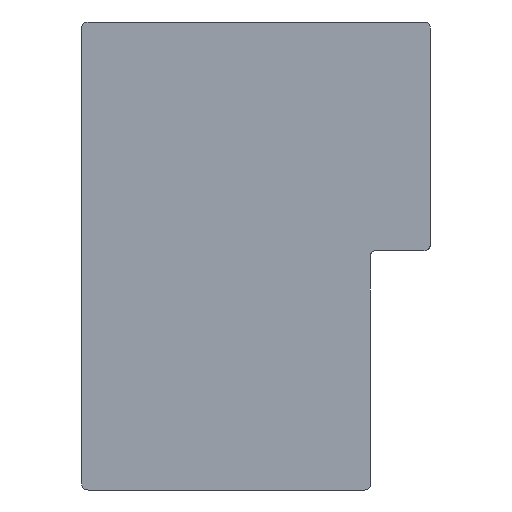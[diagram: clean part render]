
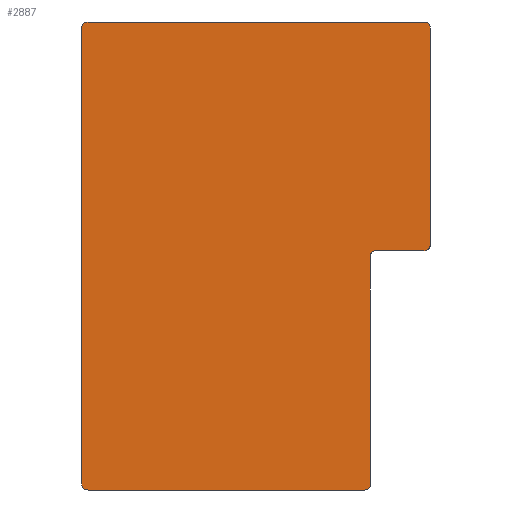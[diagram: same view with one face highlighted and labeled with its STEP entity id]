
A CAD part, front view. The second image highlights one B-rep face of the part: STEP entity #2887.
In plain terms, the highlighted planar face has unit normal (0, -1, 0).
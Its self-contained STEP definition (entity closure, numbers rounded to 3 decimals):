
#20 = CARTESIAN_POINT ( 'NONE',  ( -13.86, 0., -18.457 ) ) ;
#22 = FACE_OUTER_BOUND ( 'NONE', #1239, .T. ) ;
#39 = DIRECTION ( 'NONE',  ( 0., -1., 0. ) ) ;
#54 = CARTESIAN_POINT ( 'NONE',  ( -13.695, 0., -18.622 ) ) ;
#85 = VERTEX_POINT ( 'NONE', #2794 ) ;
#104 = CARTESIAN_POINT ( 'NONE',  ( 9.098, 0., -0.069 ) ) ;
#119 = CARTESIAN_POINT ( 'NONE',  ( 9.098, 0., -0.002 ) ) ;
#130 = EDGE_CURVE ( 'NONE', #2142, #1344, #722, .T. ) ;
#151 = AXIS2_PLACEMENT_3D ( 'NONE', #1589, #39, #339 ) ;
#152 = CARTESIAN_POINT ( 'NONE',  ( 13.86, 0., 0.591 ) ) ;
#201 = VECTOR ( 'NONE', #1889, 1000. ) ;
#204 = DIRECTION ( 'NONE',  ( 0., 0., 1. ) ) ;
#276 = CARTESIAN_POINT ( 'NONE',  ( -13.86, 0., -18.127 ) ) ;
#339 = DIRECTION ( 'NONE',  ( 0., 0., -1. ) ) ;
#356 = CARTESIAN_POINT ( 'NONE',  ( -13.365, 0., 18.622 ) ) ;
#448 = B_SPLINE_CURVE_WITH_KNOTS ( 'NONE', 3,
 ( #1090, #1555, #3113, #1120 ),
 .UNSPECIFIED., .F., .F.,
 ( 4, 4 ),
 ( 0., 1. ),
 .UNSPECIFIED. ) ;
#517 = VECTOR ( 'NONE', #3211, 1000. ) ;
#521 = B_SPLINE_CURVE_WITH_KNOTS ( 'NONE', 3,
 ( #900, #1127, #1905, #647 ),
 .UNSPECIFIED., .F., .F.,
 ( 4, 4 ),
 ( 0., 1. ),
 .UNSPECIFIED. ) ;
#588 = PLANE ( 'NONE',  #151 ) ;
#632 = CARTESIAN_POINT ( 'NONE',  ( 9.458, 0., 0.419 ) ) ;
#639 = LINE ( 'NONE', #2219, #517 ) ;
#647 = CARTESIAN_POINT ( 'NONE',  ( 9.098, 0., -18.127 ) ) ;
#657 = CARTESIAN_POINT ( 'NONE',  ( 13.695, 0., 18.622 ) ) ;
#670 = VECTOR ( 'NONE', #2638, 1000. ) ;
#721 = EDGE_CURVE ( 'NONE', #2155, #1344, #639, .T. ) ;
#722 = B_SPLINE_CURVE_WITH_KNOTS ( 'NONE', 3,
 ( #104, #119, #1938, #2949, #1883, #1650, #2146, #632, #880, #2387 ),
 .UNSPECIFIED., .F., .F.,
 ( 4, 2, 2, 2, 4 ),
 ( 0., 0., 0., 0.001, 0.001 ),
 .UNSPECIFIED. ) ;
#756 = CARTESIAN_POINT ( 'NONE',  ( 13.86, 0., 0.921 ) ) ;
#861 = ORIENTED_EDGE ( 'NONE', *, *, #3176, .F. ) ;
#880 = CARTESIAN_POINT ( 'NONE',  ( 9.526, 0., 0.426 ) ) ;
#892 = VERTEX_POINT ( 'NONE', #356 ) ;
#900 = CARTESIAN_POINT ( 'NONE',  ( 8.603, 0., -18.622 ) ) ;
#937 = VECTOR ( 'NONE', #3074, 1000. ) ;
#955 = ORIENTED_EDGE ( 'NONE', *, *, #3106, .F. ) ;
#982 = CARTESIAN_POINT ( 'NONE',  ( 9.098, 0., -0.069 ) ) ;
#1056 = ORIENTED_EDGE ( 'NONE', *, *, #1311, .F. ) ;
#1090 = CARTESIAN_POINT ( 'NONE',  ( -13.365, 0., 18.622 ) ) ;
#1091 = ORIENTED_EDGE ( 'NONE', *, *, #1400, .F. ) ;
#1120 = CARTESIAN_POINT ( 'NONE',  ( -13.86, 0., 18.127 ) ) ;
#1121 = VERTEX_POINT ( 'NONE', #2854 ) ;
#1127 = CARTESIAN_POINT ( 'NONE',  ( 8.933, 0., -18.622 ) ) ;
#1133 = EDGE_CURVE ( 'NONE', #892, #2639, #448, .T. ) ;
#1160 = EDGE_CURVE ( 'NONE', #2142, #1274, #2077, .T. ) ;
#1169 = ORIENTED_EDGE ( 'NONE', *, *, #130, .T. ) ;
#1171 = CARTESIAN_POINT ( 'NONE',  ( 13.695, 0., 0.426 ) ) ;
#1190 = CARTESIAN_POINT ( 'NONE',  ( 13.86, 0., 18.622 ) ) ;
#1239 = EDGE_LOOP ( 'NONE', ( #1895, #3215, #1056, #3114, #955, #2608, #861, #1679, #1091, #1586, #2914, #1169 ) ) ;
#1274 = VERTEX_POINT ( 'NONE', #1843 ) ;
#1311 = EDGE_CURVE ( 'NONE', #1357, #1434, #2072, .T. ) ;
#1312 = VECTOR ( 'NONE', #204, 1000. ) ;
#1344 = VERTEX_POINT ( 'NONE', #1549 ) ;
#1357 = VERTEX_POINT ( 'NONE', #1812 ) ;
#1359 = VECTOR ( 'NONE', #2979, 1000. ) ;
#1365 = LINE ( 'NONE', #2133, #201 ) ;
#1400 = EDGE_CURVE ( 'NONE', #1500, #2256, #1365, .T. ) ;
#1434 = VERTEX_POINT ( 'NONE', #2150 ) ;
#1462 = EDGE_CURVE ( 'NONE', #1500, #1274, #521, .T. ) ;
#1498 = CARTESIAN_POINT ( 'NONE',  ( 13.365, 0., 18.622 ) ) ;
#1500 = VERTEX_POINT ( 'NONE', #2953 ) ;
#1549 = CARTESIAN_POINT ( 'NONE',  ( 9.593, 0., 0.426 ) ) ;
#1555 = CARTESIAN_POINT ( 'NONE',  ( -13.695, 0., 18.622 ) ) ;
#1570 = CARTESIAN_POINT ( 'NONE',  ( 9.098, 0., 0.426 ) ) ;
#1586 = ORIENTED_EDGE ( 'NONE', *, *, #1462, .T. ) ;
#1589 = CARTESIAN_POINT ( 'NONE',  ( 0., 0., 0. ) ) ;
#1650 = CARTESIAN_POINT ( 'NONE',  ( 9.268, 0., 0.349 ) ) ;
#1679 = ORIENTED_EDGE ( 'NONE', *, *, #3263, .T. ) ;
#1715 = LINE ( 'NONE', #1190, #1359 ) ;
#1743 = CARTESIAN_POINT ( 'NONE',  ( 13.365, 0., 0.426 ) ) ;
#1812 = CARTESIAN_POINT ( 'NONE',  ( 13.86, 0., 18.127 ) ) ;
#1843 = CARTESIAN_POINT ( 'NONE',  ( 9.098, 0., -18.127 ) ) ;
#1883 = CARTESIAN_POINT ( 'NONE',  ( 9.174, 0., 0.254 ) ) ;
#1889 = DIRECTION ( 'NONE',  ( -1., 0., 0. ) ) ;
#1895 = ORIENTED_EDGE ( 'NONE', *, *, #721, .F. ) ;
#1905 = CARTESIAN_POINT ( 'NONE',  ( 9.098, 0., -18.457 ) ) ;
#1921 = B_SPLINE_CURVE_WITH_KNOTS ( 'NONE', 3,
 ( #3170, #2765, #657, #1498 ),
 .UNSPECIFIED., .F., .F.,
 ( 4, 4 ),
 ( 0., 1. ),
 .UNSPECIFIED. ) ;
#1938 = CARTESIAN_POINT ( 'NONE',  ( 9.104, 0., 0.064 ) ) ;
#2072 = LINE ( 'NONE', #3109, #937 ) ;
#2077 = LINE ( 'NONE', #1570, #670 ) ;
#2133 = CARTESIAN_POINT ( 'NONE',  ( 9.098, 0., -18.622 ) ) ;
#2142 = VERTEX_POINT ( 'NONE', #982 ) ;
#2146 = CARTESIAN_POINT ( 'NONE',  ( 9.33, 0., 0.381 ) ) ;
#2150 = CARTESIAN_POINT ( 'NONE',  ( 13.86, 0., 0.921 ) ) ;
#2155 = VERTEX_POINT ( 'NONE', #2749 ) ;
#2208 = B_SPLINE_CURVE_WITH_KNOTS ( 'NONE', 3,
 ( #1743, #1171, #152, #756 ),
 .UNSPECIFIED., .F., .F.,
 ( 4, 4 ),
 ( 0., 1. ),
 .UNSPECIFIED. ) ;
#2219 = CARTESIAN_POINT ( 'NONE',  ( 13.86, 0., 0.426 ) ) ;
#2253 = CARTESIAN_POINT ( 'NONE',  ( -13.365, 0., -18.622 ) ) ;
#2256 = VERTEX_POINT ( 'NONE', #2253 ) ;
#2339 = EDGE_CURVE ( 'NONE', #2155, #1434, #2208, .T. ) ;
#2387 = CARTESIAN_POINT ( 'NONE',  ( 9.593, 0., 0.426 ) ) ;
#2415 = EDGE_CURVE ( 'NONE', #1357, #85, #1921, .T. ) ;
#2441 = CARTESIAN_POINT ( 'NONE',  ( -13.86, 0., 18.127 ) ) ;
#2608 = ORIENTED_EDGE ( 'NONE', *, *, #1133, .T. ) ;
#2638 = DIRECTION ( 'NONE',  ( 0., 0., -1. ) ) ;
#2639 = VERTEX_POINT ( 'NONE', #2441 ) ;
#2671 = B_SPLINE_CURVE_WITH_KNOTS ( 'NONE', 3,
 ( #276, #20, #54, #3033 ),
 .UNSPECIFIED., .F., .F.,
 ( 4, 4 ),
 ( 0., 1. ),
 .UNSPECIFIED. ) ;
#2749 = CARTESIAN_POINT ( 'NONE',  ( 13.365, 0., 0.426 ) ) ;
#2765 = CARTESIAN_POINT ( 'NONE',  ( 13.86, 0., 18.457 ) ) ;
#2771 = CARTESIAN_POINT ( 'NONE',  ( -13.86, 0., -18.622 ) ) ;
#2794 = CARTESIAN_POINT ( 'NONE',  ( 13.365, 0., 18.622 ) ) ;
#2854 = CARTESIAN_POINT ( 'NONE',  ( -13.86, 0., -18.127 ) ) ;
#2887 = ADVANCED_FACE ( 'NONE', ( #22 ), #588, .T. ) ;
#2914 = ORIENTED_EDGE ( 'NONE', *, *, #1160, .F. ) ;
#2949 = CARTESIAN_POINT ( 'NONE',  ( 9.141, 0., 0.192 ) ) ;
#2953 = CARTESIAN_POINT ( 'NONE',  ( 8.603, 0., -18.622 ) ) ;
#2979 = DIRECTION ( 'NONE',  ( 1., 0., 0. ) ) ;
#3033 = CARTESIAN_POINT ( 'NONE',  ( -13.365, 0., -18.622 ) ) ;
#3074 = DIRECTION ( 'NONE',  ( 0., 0., -1. ) ) ;
#3106 = EDGE_CURVE ( 'NONE', #892, #85, #1715, .T. ) ;
#3109 = CARTESIAN_POINT ( 'NONE',  ( 13.86, 0., 0.426 ) ) ;
#3113 = CARTESIAN_POINT ( 'NONE',  ( -13.86, 0., 18.457 ) ) ;
#3114 = ORIENTED_EDGE ( 'NONE', *, *, #2415, .T. ) ;
#3170 = CARTESIAN_POINT ( 'NONE',  ( 13.86, 0., 18.127 ) ) ;
#3176 = EDGE_CURVE ( 'NONE', #1121, #2639, #3202, .T. ) ;
#3202 = LINE ( 'NONE', #2771, #1312 ) ;
#3211 = DIRECTION ( 'NONE',  ( -1., 0., 0. ) ) ;
#3215 = ORIENTED_EDGE ( 'NONE', *, *, #2339, .T. ) ;
#3263 = EDGE_CURVE ( 'NONE', #1121, #2256, #2671, .T. ) ;
